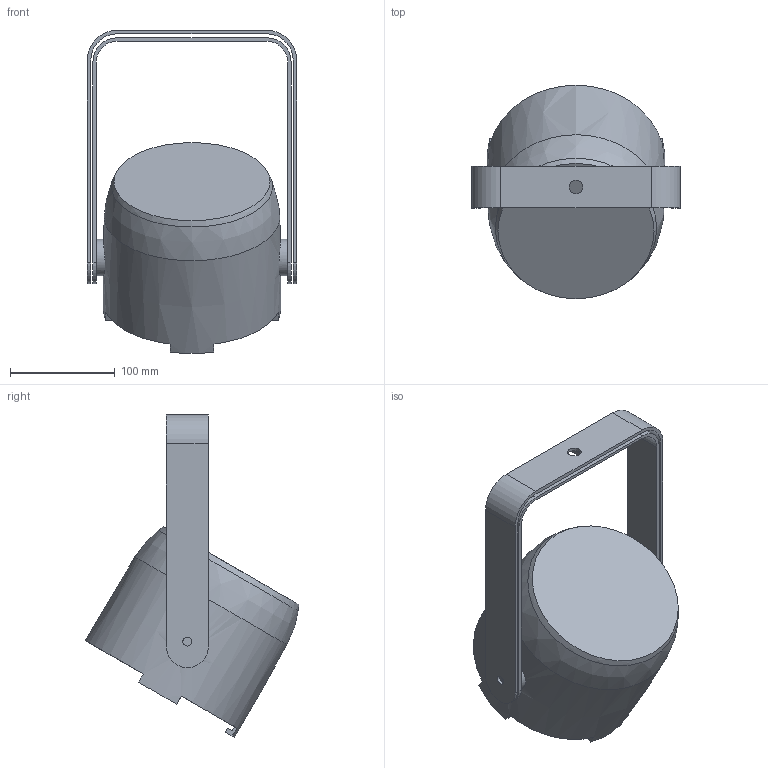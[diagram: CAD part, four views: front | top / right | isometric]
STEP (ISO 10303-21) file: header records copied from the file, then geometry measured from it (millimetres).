
FILE_DESCRIPTION(/* description */ (''),/* implementation_level */ '2;1');
FILE_NAME(/* name */ 'Colordash Par H7XIP_3D__30.stp',/* time_stamp */ '2023-01-11T11:28:47-05:00',/* author */ ('dgooch'),/* organization */ (''),/* preprocessor_version */ 'ST-DEVELOPER v19.2',/* originating_system */ 'Autodesk Inventor 2023',/* authorisation */ '');
FILE_SCHEMA (('AUTOMOTIVE_DESIGN { 1 0 10303 214 3 1 1 }'));
Length unit declared in the file: millimetre
Products named in the file (5): Colordash Par H7XIP; ASM0035_ASM (1); PRT0114 (1); PRT0115 (1); Component75
Assembly tree (4 placements, depth 3):
  Colordash Par H7XIP
    ASM0035_ASM (1)
      PRT0114 (1)
      PRT0115 (1)
    Component75
Bounding box: 199.8 x 204.1 x 308.68 mm (x, y, z)
Volume: 3044169.1 mm3; surface area: 225262.1 mm2
Topology: 3 solids, 3 shells, 66 faces, 173 edges, 116 vertices
Faces by surface type: plane 39, cylinder 24, bspline 3
Full cylindrical faces by diameter (mm): 8.5 x4, 13 x1, 35 x2, 135.213 x1
Entity records: 2537 total; most frequent: CARTESIAN_POINT 660, DIRECTION 370, ORIENTED_EDGE 346, EDGE_CURVE 173, AXIS2_PLACEMENT_3D 134, VERTEX_POINT 116, LINE 102, VECTOR 102
